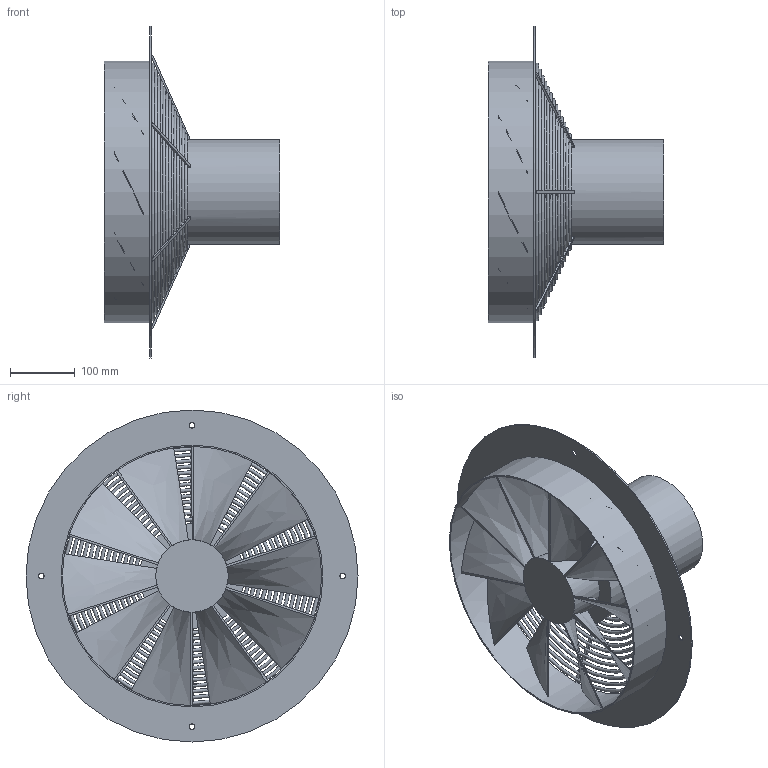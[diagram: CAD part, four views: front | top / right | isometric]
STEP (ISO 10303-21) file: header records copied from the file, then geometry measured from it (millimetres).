
FILE_DESCRIPTION(/* description */ (''),/* implementation_level */ '2;1');
FILE_NAME(/* name */ 'Z:\Output\HWD 400-4-01025-023.stp',/* time_stamp */ '2017-06-08T19:39:42+02:00',/* author */ ('Engineering1'),/* organization */ (''),/* preprocessor_version */ 'ST-DEVELOPER v16.5',/* originating_system */ 'Autodesk Inventor 2017',/* authorisation */ '');
FILE_SCHEMA (('AUTOMOTIVE_DESIGN { 1 0 10303 214 3 1 1 }'));
Length unit declared in the file: millimetre
Products named in the file (1): HW-1
Bounding box: 270 x 512 x 512 mm (x, y, z)
Volume: 5410457.9 mm3; surface area: 925431.8 mm2
Topology: 5 solids, 5 shells, 168 faces, 617 edges, 400 vertices
Faces by surface type: plane 116, bspline 30, torus 13, cylinder 9
Full cylindrical faces by diameter (mm): 9 x4, 111.6 x1, 161.6 x1, 400 x1, 404 x1, 512 x1
Entity records: 7572 total; most frequent: CARTESIAN_POINT 2063, ORIENTED_EDGE 1198, DIRECTION 1040, EDGE_CURVE 583, AXIS2_PLACEMENT_3D 400, VERTEX_POINT 387, EDGE_LOOP 260, LINE 240
